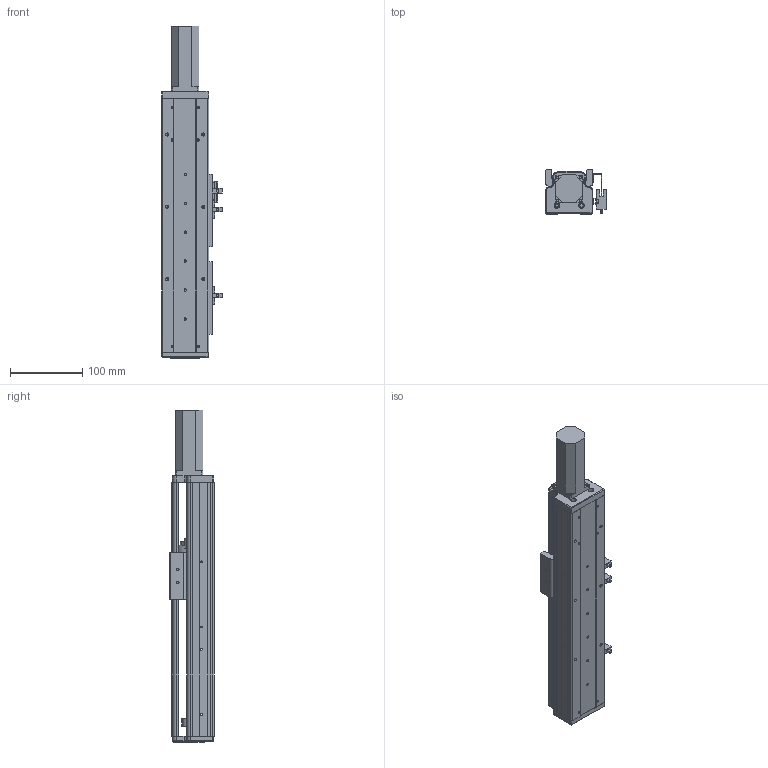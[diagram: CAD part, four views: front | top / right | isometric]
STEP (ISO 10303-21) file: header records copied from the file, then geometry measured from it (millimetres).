
FILE_DESCRIPTION (( 'STEP AP203' ), '1' );
FILE_NAME ('RY60-L1210-300-MK.SLDASM_150.step', '2021-02-20T01:55:46', ( '' ), ( '' ), 'SwSTEP 2.0', 'SolidWorks 2012', '' );
FILE_SCHEMA (( 'CONFIG_CONTROL_DESIGN' ));
Length unit declared in the file: millimetre
Products named in the file (13): RY60綴裔啣; 滅袉蝶18-10; 滅袉蝶18-20; 672嫖萇羲壽假蚾釱; RY80俋离覜茼え; 侂狟100W; 覜茼ん672; RY60-300倰第裔啣-MK_150; RY60前盖板100(PCD46-M4); RY60臏賑輸; RY60-300倰第菁釱-MK_150; RY60-L1210-300-MK.SLDASM_150; SFN1210螺母(没线割）
Assembly tree (17 placements, depth 2):
  RY60-L1210-300-MK.SLDASM_150
    RY60-300倰第菁釱-MK_150
    RY60臏賑輸
    RY60-300倰第裔啣-MK_150
    RY60前盖板100(PCD46-M4)
    672嫖萇羲壽假蚾釱  x2
    覜茼ん672  x3
    RY80俋离覜茼え
    侂狟100W
    滅袉蝶18-20  x2
    滅袉蝶18-10  x2
    RY60綴裔啣
    SFN1210螺母(没线割）
Bounding box: 83.7 x 61 x 459 mm (x, y, z)
Volume: 602818.8 mm3; surface area: 270866.3 mm2
Topology: 18 solids, 18 shells, 1056 faces, 2939 edges, 1902 vertices
Faces by surface type: plane 517, cylinder 473, cone 57, bspline 9
Entity records: 33359 total; most frequent: CARTESIAN_POINT 7520, ORIENTED_EDGE 5154, DIRECTION 5014, EDGE_CURVE 2577, AXIS2_PLACEMENT_3D 1734, VERTEX_POINT 1686, VECTOR 1546, LINE 1546
